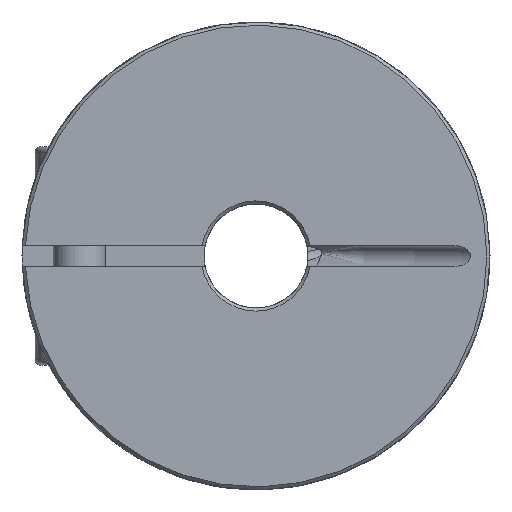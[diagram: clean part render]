
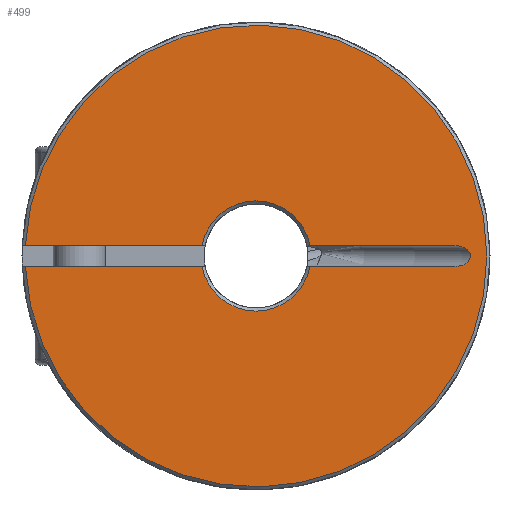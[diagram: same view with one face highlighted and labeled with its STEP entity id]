
A CAD part, left-side view. The second image highlights one B-rep face of the part: STEP entity #499.
In plain terms, the highlighted planar face has unit normal (-1, 0, 0).
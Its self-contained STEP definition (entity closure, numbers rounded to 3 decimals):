
#499 = ADVANCED_FACE( 'NONE', ( #1047 ), #1048, .F. );
#1047 = FACE_OUTER_BOUND( '', #2127, .T. );
#1048 = PLANE( '', #2128 );
#2127 = EDGE_LOOP( '', ( #3171, #3172, #3173, #3174, #3175, #3176, #3177, #3178 ) );
#2128 = AXIS2_PLACEMENT_3D( '', #3179, #3180, #3181 );
#3171 = ORIENTED_EDGE( '', *, *, #4071, .F. );
#3172 = ORIENTED_EDGE( '', *, *, #3809, .T. );
#3173 = ORIENTED_EDGE( '', *, *, #4072, .T. );
#3174 = ORIENTED_EDGE( '', *, *, #4018, .T. );
#3175 = ORIENTED_EDGE( '', *, *, #3736, .T. );
#3176 = ORIENTED_EDGE( '', *, *, #3801, .T. );
#3177 = ORIENTED_EDGE( '', *, *, #4073, .F. );
#3178 = ORIENTED_EDGE( '', *, *, #3862, .T. );
#3179 = CARTESIAN_POINT( '', ( 0., 5., 0. ) );
#3180 = DIRECTION( '', ( 1., 0., 0. ) );
#3181 = DIRECTION( '', ( 0., 1., 0. ) );
#3736 = EDGE_CURVE( 'NONE', #4283, #4284, #4285, .T. );
#3801 = EDGE_CURVE( 'NONE', #4284, #4391, #4393, .F. );
#3809 = EDGE_CURVE( 'NONE', #4406, #4404, #4407, .T. );
#3862 = EDGE_CURVE( 'NONE', #4488, #4486, #4489, .T. );
#4018 = EDGE_CURVE( 'NONE', #4720, #4283, #4721, .T. );
#4071 = EDGE_CURVE( 'NONE', #4406, #4486, #4791, .F. );
#4072 = EDGE_CURVE( 'NONE', #4404, #4720, #4792, .T. );
#4073 = EDGE_CURVE( 'NONE', #4488, #4391, #4793, .F. );
#4283 = VERTEX_POINT( 'NONE', #5021 );
#4284 = VERTEX_POINT( 'NONE', #5022 );
#4285 = LINE( '', #5023, #5024 );
#4391 = VERTEX_POINT( 'NONE', #5265 );
#4393 = CIRCLE( '', #5270, 22.2 );
#4404 = VERTEX_POINT( 'NONE', #5290 );
#4406 = VERTEX_POINT( 'NONE', #5292 );
#4407 = B_SPLINE_CURVE_WITH_KNOTS( '', 3, ( #5293, #5294, #5295, #5296, #5297, #5298, #5299, #5300, #5301, #5302, #5303, #5304, #5305, #5306, #5307, #5308, #5309, #5310 ), .UNSPECIFIED., .F., .F., ( 4, 2, 2, 2, 2, 2, 2, 2, 4 ), ( 0., 0., 0.001, 0.001, 0.002, 0.002, 0.003, 0.003, 0.004 ), .UNSPECIFIED. );
#4486 = VERTEX_POINT( 'NONE', #5492 );
#4488 = VERTEX_POINT( 'NONE', #5497 );
#4489 = CIRCLE( '', #5498, 5.3 );
#4720 = VERTEX_POINT( 'NONE', #5929 );
#4721 = CIRCLE( '', #5930, 5.3 );
#4791 = LINE( '', #6008, #6009 );
#4792 = LINE( '', #6010, #6011 );
#4793 = LINE( '', #6012, #6013 );
#5021 = CARTESIAN_POINT( '', ( 0., 1., 5.205 ) );
#5022 = CARTESIAN_POINT( '', ( 0., 1., 22.177 ) );
#5023 = CARTESIAN_POINT( '', ( 0., 1., 0. ) );
#5024 = VECTOR( '', #6282, 1000. );
#5265 = CARTESIAN_POINT( '', ( 0., -1., 22.177 ) );
#5270 = AXIS2_PLACEMENT_3D( '', #6371, #6372, #6373 );
#5290 = CARTESIAN_POINT( '', ( 0., 1., -19.125 ) );
#5292 = CARTESIAN_POINT( '', ( 0., -1., -19.125 ) );
#5293 = CARTESIAN_POINT( '', ( 0., -1., -19.125 ) );
#5294 = CARTESIAN_POINT( '', ( 0., -1., -19.291 ) );
#5295 = CARTESIAN_POINT( '', ( 0., -0.983, -19.455 ) );
#5296 = CARTESIAN_POINT( '', ( 0., -0.91, -19.775 ) );
#5297 = CARTESIAN_POINT( '', ( 0., -0.854, -19.934 ) );
#5298 = CARTESIAN_POINT( '', ( 0., -0.697, -20.225 ) );
#5299 = CARTESIAN_POINT( '', ( 0., -0.593, -20.36 ) );
#5300 = CARTESIAN_POINT( '', ( 0., -0.33, -20.564 ) );
#5301 = CARTESIAN_POINT( '', ( 0., -0.169, -20.63 ) );
#5302 = CARTESIAN_POINT( '', ( 0., 0.168, -20.63 ) );
#5303 = CARTESIAN_POINT( '', ( 0., 0.328, -20.566 ) );
#5304 = CARTESIAN_POINT( '', ( 0., 0.592, -20.361 ) );
#5305 = CARTESIAN_POINT( '', ( 0., 0.695, -20.227 ) );
#5306 = CARTESIAN_POINT( '', ( 0., 0.854, -19.936 ) );
#5307 = CARTESIAN_POINT( '', ( 0., 0.909, -19.78 ) );
#5308 = CARTESIAN_POINT( '', ( 0., 0.983, -19.456 ) );
#5309 = CARTESIAN_POINT( '', ( 0., 1., -19.291 ) );
#5310 = CARTESIAN_POINT( '', ( 0., 1., -19.125 ) );
#5492 = CARTESIAN_POINT( '', ( 0., -1., -5.205 ) );
#5497 = CARTESIAN_POINT( '', ( 0., -1., 5.205 ) );
#5498 = AXIS2_PLACEMENT_3D( '', #6456, #6457, #6458 );
#5929 = CARTESIAN_POINT( '', ( 0., 1., -5.205 ) );
#5930 = AXIS2_PLACEMENT_3D( '', #6689, #6690, #6691 );
#6008 = CARTESIAN_POINT( '', ( 0., -1., 13. ) );
#6009 = VECTOR( '', #6772, 1000. );
#6010 = CARTESIAN_POINT( '', ( 0., 1., 0. ) );
#6011 = VECTOR( '', #6773, 1000. );
#6012 = CARTESIAN_POINT( '', ( 0., -1., 13. ) );
#6013 = VECTOR( '', #6774, 1000. );
#6282 = DIRECTION( '', ( 0., 0., 1. ) );
#6371 = CARTESIAN_POINT( '', ( 0., 0., 0. ) );
#6372 = DIRECTION( '', ( 1., 0., 0. ) );
#6373 = DIRECTION( '', ( 0., 0., -1. ) );
#6456 = CARTESIAN_POINT( '', ( 0., 0., 0. ) );
#6457 = DIRECTION( '', ( 1., 0., 0. ) );
#6458 = DIRECTION( '', ( 0., 0., -1. ) );
#6689 = CARTESIAN_POINT( '', ( 0., 0., 0. ) );
#6690 = DIRECTION( '', ( 1., 0., 0. ) );
#6691 = DIRECTION( '', ( 0., 0., -1. ) );
#6772 = DIRECTION( '', ( 0., 0., -1. ) );
#6773 = DIRECTION( '', ( 0., 0., 1. ) );
#6774 = DIRECTION( '', ( 0., 0., -1. ) );
